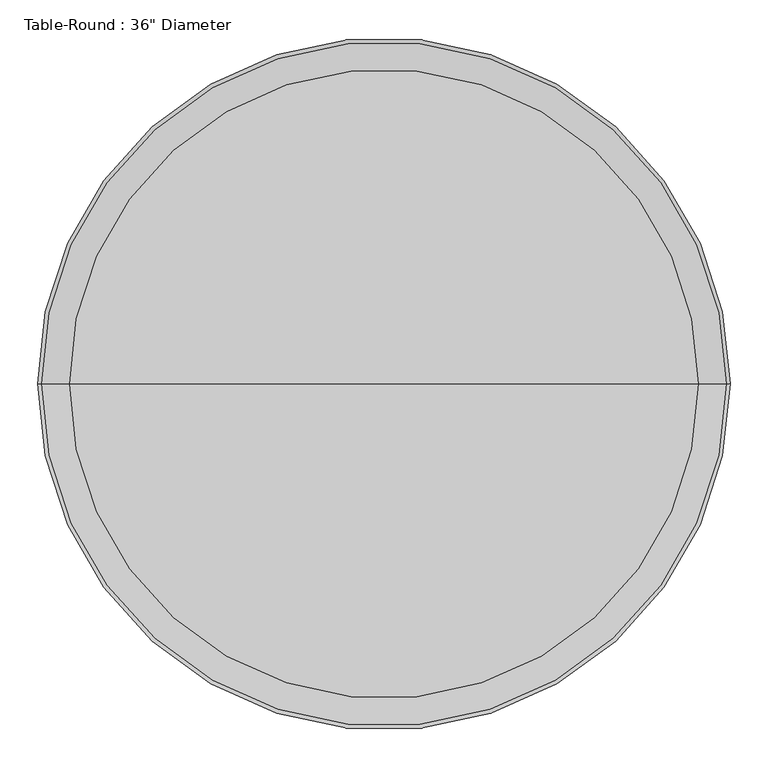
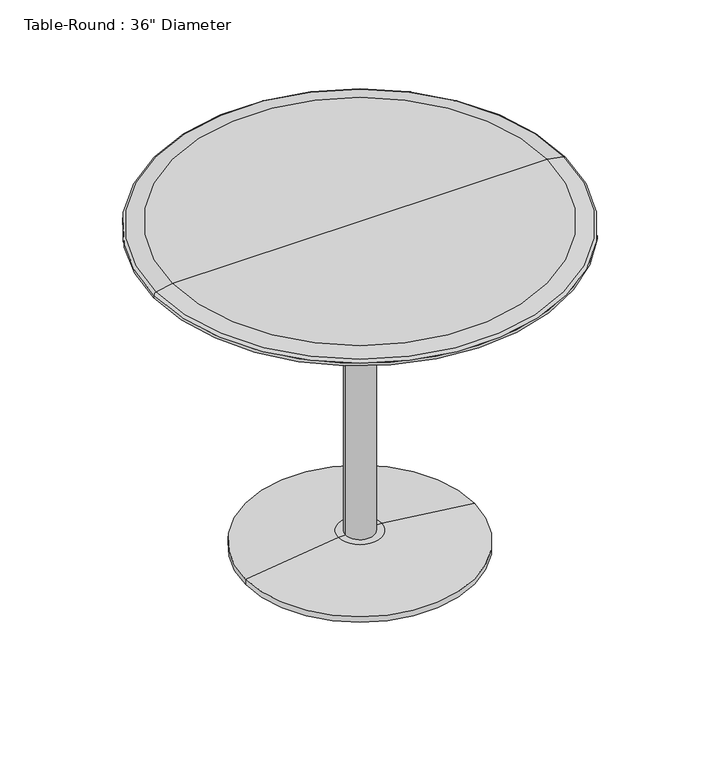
"""IFC4 building model written with IfcOpenShell, lengths in millimetres: furniture geometry."""

import ifcopenshell
import ifcopenshell.guid

model = None  # the IFC model being written
_history = None  # IfcOwnerHistory: only IFC2X3 demands one
_inside = {}  # id of a spatial element -> (the spatial element, [elements in it])
_under = {}  # id of a project, library or spatial element -> (it, [spatial elements below it])
_declared = {}  # id of a project -> (the project, [libraries it declares])
_typed = {}  # id of a type object -> (the type object, [elements of that type])
_made_of = {}  # id of a material, layer set ... -> (it, [elements and type objects made of it])


def new_model(schema):
    """Start an empty IFC model of exactly this schema.

    Asked for "IFC4X3", IfcOpenShell would pick the latest addendum, in which some entities
    have other attributes; the version numbers below select the first issue.
    IFC2X3 requires an IfcOwnerHistory on every rooted entity: one is made here for all.
    """
    global model, _history
    if schema == "IFC4X3":
        model = ifcopenshell.file(schema_version=(4, 3, 0, 0))
    else:
        model = ifcopenshell.file(schema=schema)
    _inside.clear()
    _under.clear()
    _declared.clear()
    _typed.clear()
    _made_of.clear()
    _history = None
    if model.schema == "IFC2X3":
        org = make("IfcOrganization", Name="unknown")
        user = make(
            "IfcPersonAndOrganization",
            ThePerson=make("IfcPerson", FamilyName="unknown"),
            TheOrganization=org,
        )
        app = make(
            "IfcApplication",
            ApplicationDeveloper=org,
            Version="unknown",
            ApplicationFullName="unknown",
            ApplicationIdentifier="unknown",
        )
        _history = make(
            "IfcOwnerHistory",
            OwningUser=user,
            OwningApplication=app,
            ChangeAction="ADDED",
            CreationDate=0,
        )
    return model


def make(cls, **values):
    """One entity of the class cls with the attributes given. An attribute that is None is left unset."""
    return model.create_entity(
        cls, **{name: value for name, value in values.items() if value is not None}
    )


def rooted(cls, **values):
    """An entity with a GlobalId (a new one), such as an element, a storey or a relation."""
    return make(cls, GlobalId=ifcopenshell.guid.new(), OwnerHistory=_history, **values)


def si_unit(unit_type, name, prefix=None):
    """IfcSIUnit, for example si_unit("LENGTHUNIT", "METRE", prefix="MILLI")."""
    return make("IfcSIUnit", UnitType=unit_type, Prefix=prefix, Name=name)


def assignment(units):
    """IfcUnitAssignment: the units of a project."""
    return None if units is None else make("IfcUnitAssignment", Units=units)


def point(xyz):
    """IfcCartesianPoint."""
    return None if xyz is None else make("IfcCartesianPoint", Coordinates=xyz)


def direction(xyz):
    """IfcDirection."""
    return None if xyz is None else make("IfcDirection", DirectionRatios=xyz)


def frame(location, z_axis=None, x_axis=None):
    """IfcAxis2Placement3D, a coordinate frame: its origin and axes. An axis left out is left unset."""
    return make(
        "IfcAxis2Placement3D",
        Location=point(location),
        Axis=direction(z_axis),
        RefDirection=direction(x_axis),
    )


def frame_2d(location, x_axis=None):
    """IfcAxis2Placement2D, a coordinate frame in the plane: its origin and x axis."""
    return make(
        "IfcAxis2Placement2D", Location=point(location), RefDirection=direction(x_axis)
    )


def origin():
    """The frame at (0, 0, 0) with its axes left unset."""
    return frame((0.0, 0.0, 0.0))


def origin_2d():
    """The frame at (0, 0) in the plane with its x axis left unset."""
    return frame_2d((0.0, 0.0))


def place(relative_to, where):
    """IfcLocalPlacement: puts the frame where relative to a parent placement (None: the world)."""
    return make(
        "IfcLocalPlacement", PlacementRelTo=relative_to, RelativePlacement=where
    )


def context(
    kind, dimensions, precision=None, world=None, true_north=None, identifier=None
):
    """IfcGeometricRepresentationContext, for example the 3D "Model" context."""
    return make(
        "IfcGeometricRepresentationContext",
        ContextIdentifier=identifier,
        ContextType=kind,
        CoordinateSpaceDimension=dimensions,
        Precision=precision,
        WorldCoordinateSystem=world,
        TrueNorth=true_north,
    )


def project(units=None, contexts=None):
    """IfcProject with its units and contexts."""
    return rooted(
        "IfcProject",
        Name="project",
        RepresentationContexts=contexts,
        UnitsInContext=assignment(units),
    )


def spatial(cls, under=None, at=None, **own):
    """A site, building, storey or space (cls), placed at a placement, below another one or the project."""
    s = rooted(cls, ObjectPlacement=at, **own)
    if under is not None:
        _under.setdefault(under.id(), (under, []))[1].append(s)
    return s


def polyline(points):
    """IfcPolyline through the points."""
    return make("IfcPolyline", Points=[point(p) for p in points])


def circle_curve(where, radius):
    """IfcCircle in the frame where."""
    return make("IfcCircle", Position=where, Radius=radius)


def ellipse_curve(where, semi_axis1, semi_axis2):
    """IfcEllipse in the frame where."""
    return make(
        "IfcEllipse", Position=where, SemiAxis1=semi_axis1, SemiAxis2=semi_axis2
    )


def trimmed(basis, trim1, trim2, sense, master):
    """IfcTrimmedCurve: the piece of a basis curve between two trims."""
    return make(
        "IfcTrimmedCurve",
        BasisCurve=basis,
        Trim1=trim1,
        Trim2=trim2,
        SenseAgreement=sense,
        MasterRepresentation=master,
    )


def segment(curve, same_sense, transition):
    """IfcCompositeCurveSegment."""
    return make(
        "IfcCompositeCurveSegment",
        Transition=transition,
        SameSense=same_sense,
        ParentCurve=curve,
    )


def composite_curve(segments, self_intersect=None):
    """IfcCompositeCurve: segments joined end to end."""
    return make("IfcCompositeCurve", Segments=segments, SelfIntersect=self_intersect)


def outline(outer, holes=None, kind="AREA"):
    """IfcArbitraryClosedProfileDef: a profile drawn as a closed curve; with holes, ...WithVoids."""
    if holes is None:
        return make("IfcArbitraryClosedProfileDef", ProfileType=kind, OuterCurve=outer)
    return make(
        "IfcArbitraryProfileDefWithVoids",
        ProfileType=kind,
        OuterCurve=outer,
        InnerCurves=holes,
    )


def extrude(swept, where, along, depth):
    """IfcExtrudedAreaSolid: the profile swept, set in the frame where, extruded along a direction by depth."""
    return make(
        "IfcExtrudedAreaSolid",
        SweptArea=swept,
        Position=where,
        ExtrudedDirection=direction(along),
        Depth=depth,
    )


def shape(context_of_items, identifier, shape_type, items):
    """IfcShapeRepresentation: the items that make up one representation, for example the "Body"."""
    return make(
        "IfcShapeRepresentation",
        ContextOfItems=context_of_items,
        RepresentationIdentifier=identifier,
        RepresentationType=shape_type,
        Items=items,
    )


def source(mapping_origin, context_of_items, identifier, shape_type, items):
    """IfcRepresentationMap: a shape defined once, which mapped items show again and again."""
    return make(
        "IfcRepresentationMap",
        MappingOrigin=mapping_origin,
        MappedRepresentation=shape(context_of_items, identifier, shape_type, items),
    )


def transform(
    local_origin,
    x_axis=None,
    y_axis=None,
    z_axis=None,
    scale=None,
    scale2=None,
    scale3=None,
    uniform=True,
):
    """IfcCartesianTransformationOperator3D, or its non-uniform kind. x_axis, y_axis, z_axis: its Axis1, 2, 3."""
    if uniform:
        return make(
            "IfcCartesianTransformationOperator3D",
            Axis1=direction(x_axis),
            Axis2=direction(y_axis),
            LocalOrigin=point(local_origin),
            Scale=scale,
            Axis3=direction(z_axis),
        )
    return make(
        "IfcCartesianTransformationOperator3DnonUniform",
        Axis1=direction(x_axis),
        Axis2=direction(y_axis),
        LocalOrigin=point(local_origin),
        Scale=scale,
        Axis3=direction(z_axis),
        Scale2=scale2,
        Scale3=scale3,
    )


def mapped(mapping_source, mapping_target):
    """IfcMappedItem: shows the shape of a source again, moved by a transform."""
    return make(
        "IfcMappedItem", MappingSource=mapping_source, MappingTarget=mapping_target
    )


def made_of(thing, what):
    """Note that an element or type object is made of a material, layer set ...; save() writes the relation."""
    if what is not None:
        _made_of.setdefault(what.id(), (what, []))[1].append(thing)
    return thing


def element(
    cls,
    number,
    at=None,
    inside=None,
    cuts=None,
    type_object=None,
    material=None,
    context=None,
    identifier="Body",
    shape_type=None,
    held_by="IfcProductDefinitionShape",
    body=None,
    shapes=None,
    **own,
):
    """One element of the class cls, such as IfcWall. Its Tag is "e" and its number.

    at: its placement. inside: the storey or other place that contains it. cuts: it is an
    opening in that element (IfcRelVoidsElement). A single representation is given by context,
    identifier, shape_type and body (its items); several are given by shapes. held_by: the class
    of the entity that holds the representations. save() writes the other relations.
    """
    e = rooted(cls, Tag="e%d" % number, ObjectPlacement=at, **own)
    if body is not None:
        shapes = [shape(context, identifier, shape_type, body)]
    if shapes is not None:
        e.Representation = make(held_by, Representations=shapes)
    if inside is not None:
        _inside.setdefault(inside.id(), (inside, []))[1].append(e)
    if cuts is not None:
        rooted(
            "IfcRelVoidsElement", RelatingBuildingElement=cuts, RelatedOpeningElement=e
        )
    if type_object is not None:
        _typed.setdefault(type_object.id(), (type_object, []))[1].append(e)
    return made_of(e, material)


def aggregate(whole, parts):
    """IfcRelAggregates: a whole, such as a stair, and the parts it consists of."""
    return rooted("IfcRelAggregates", RelatingObject=whole, RelatedObjects=parts)


def save(model, path):
    """Write the relations noted so far, then the file.

    IfcRelAggregates (storeys below a building ...), IfcRelContainedInSpatialStructure (elements
    in a storey), IfcRelDefinesByType, IfcRelAssociatesMaterial and IfcRelDeclares: one each for
    every whole, place, type object, material and project.
    """
    for whole, parts in _under.values():
        aggregate(whole, parts)
    for where, things in _inside.values():
        rooted(
            "IfcRelContainedInSpatialStructure",
            RelatedElements=things,
            RelatingStructure=where,
        )
    for kind, things in _typed.values():
        rooted("IfcRelDefinesByType", RelatedObjects=things, RelatingType=kind)
    for what, things in _made_of.values():
        rooted("IfcRelAssociatesMaterial", RelatedObjects=things, RelatingMaterial=what)
    for by, libraries in _declared.values():
        rooted("IfcRelDeclares", RelatingContext=by, RelatedDefinitions=libraries)
    model.write(path)


def plane_surface(at):
    """IfcPlane: the flat surface through the origin of the frame at, square to its z axis."""
    return make("IfcPlane", Position=at)


def cylinder_surface(at, radius):
    """IfcCylindricalSurface: all points at the distance radius from the z axis of the frame at."""
    return make("IfcCylindricalSurface", Position=at, Radius=radius)


def revolved_surface(curve, axis_point, axis_direction):
    """IfcSurfaceOfRevolution: the curve turned about the line through axis_point along axis_direction."""
    return make(
        "IfcSurfaceOfRevolution",
        SweptCurve=make("IfcArbitraryOpenProfileDef", ProfileType="CURVE", Curve=curve),
        AxisPosition=make("IfcAxis1Placement", Location=point(axis_point), Axis=direction(axis_direction)),
    )


def advanced_brep(points, edges, surfaces, faces):
    """IfcAdvancedBrep: a solid bounded by faces that lie on surfaces and meet in shared edges.

    An edge is (start, end): straight between two places in points (the first is 0);
    or (start, end, curve); or (start, end, curve, False) where it runs against its curve.
    A face is (place in surfaces, loops), or (place, loops, False) where it looks against
    its surface's normal. A loop lists edges by number (the first is 1), with a minus sign
    where the edge is run from its end to its start. The first loop is the outer one.
    """
    corners = [point(p) for p in points]
    vertices = [make("IfcVertexPoint", VertexGeometry=c) for c in corners]
    made = []
    for start, end, *more in edges:
        made.append(
            make(
                "IfcEdgeCurve",
                EdgeStart=vertices[start],
                EdgeEnd=vertices[end],
                EdgeGeometry=more[0] if more else make("IfcPolyline", Points=[corners[start], corners[end]]),
                SameSense=more[1] if len(more) > 1 else True,
            )
        )
    hull = []
    for where, loops, *sense in faces:
        bounds = []
        for j, loop in enumerate(loops):
            ring = [make("IfcOrientedEdge", EdgeElement=made[abs(k) - 1], Orientation=k > 0) for k in loop]
            bounds.append(
                make(
                    "IfcFaceOuterBound" if j == 0 else "IfcFaceBound",
                    Bound=make("IfcEdgeLoop", EdgeList=ring),
                    Orientation=True,
                )
            )
        hull.append(make("IfcAdvancedFace", Bounds=bounds, FaceSurface=surfaces[where], SameSense=sense[0] if sense else True))
    return make("IfcAdvancedBrep", Outer=make("IfcClosedShell", CfsFaces=hull))


def furniture_c80d6d9c(model_context):
    return source(origin(), model_context, "Body", "SolidModel", [
        extrude(outline(composite_curve([segment(trimmed(circle_curve(origin_2d(), 31.75), [point((-31.75, 0.0))], [point((31.75, 0.0))], False, "CARTESIAN"), True, "CONTINUOUS"), segment(trimmed(circle_curve(origin_2d(), 31.75), [point((31.75, 0.0))], [point((-31.75, 0.0))], False, "CARTESIAN"), True, "CONTINUOUS")], self_intersect=False)), frame((0.0, 0.0, 38.1), z_axis=(0.0, 0.0, 1.0), x_axis=(1.0, 0.0, 0.0)), (0.0, 0.0, 1.0), 704.85),
        advanced_brep(
        [(0.0, 0.0, 742.95), (-457.2, 0.0, 742.95), (457.2, 0.0, 742.95), (415.3011364, 0.0, 762.0), (-415.3011364, 0.0, 762.0), (0.0, 0.0, 762.0), (451.9526659, 0.0, 755.5373465), (-451.9526659, 0.0, 755.5373465), (457.2, 0.0, 749.2838172), (-457.2, 0.0, 749.2838172)],
        [
            (0, 1),
            (1, 2, circle_curve(frame((0.0, 0.0, 742.95), z_axis=(0.0, 0.0, -1.0), x_axis=(-1.0, 0.0, 0.0)), 457.2)),
            (2, 0),
            (2, 1, circle_curve(frame((0.0, 0.0, 742.95), z_axis=(0.0, 0.0, -1.0), x_axis=(-1.0, 0.0, 0.0)), 457.2)),
            (3, 4, circle_curve(frame((0.0, 0.0, 762.0), z_axis=(0.0, 0.0, 1.0), x_axis=(-1.0, 0.0, 0.0)), 415.3011364)),
            (4, 5),
            (5, 3),
            (4, 3, circle_curve(frame((0.0, 0.0, 762.0), z_axis=(0.0, 0.0, 1.0), x_axis=(-1.0, 0.0, 0.0)), 415.3011364)),
            (6, 7, circle_curve(frame((0.0, 0.0, 755.5373465), z_axis=(0.0, 0.0, 1.0), x_axis=(-1.0, 0.0, 0.0)), 451.9526659)),
            (7, 4),
            (3, 6),
            (7, 6, circle_curve(frame((0.0, 0.0, 755.5373465), z_axis=(0.0, 0.0, 1.0), x_axis=(-1.0, 0.0, 0.0)), 451.9526659)),
            (8, 9, circle_curve(frame((0.0, 0.0, 749.2838172), z_axis=(0.0, 0.0, 1.0), x_axis=(-1.0, 0.0, 0.0)), 457.2)),
            (9, 7, circle_curve(frame((-450.85, 0.0, 749.2838172), z_axis=(0.0, 1.0, 0.0), x_axis=(1.0, 0.0, 0.0)), 6.35)),
            (6, 8, circle_curve(frame((450.85, 0.0, 749.2838172), z_axis=(0.0, 1.0, 0.0), x_axis=(-1.0, 0.0, 0.0)), 6.35)),
            (9, 8, circle_curve(frame((0.0, 0.0, 749.2838172), z_axis=(0.0, 0.0, 1.0), x_axis=(-1.0, 0.0, 0.0)), 457.2)),
            (1, 9),
            (8, 2),
        ],
        [
            plane_surface(frame((0.0, 0.0, 742.95), z_axis=(0.0, 0.0, -1.0), x_axis=(-1.0, 0.0, 0.0))),
            plane_surface(frame((0.0, 0.0, 762.0), z_axis=(0.0, 0.0, 1.0), x_axis=(-1.0, 0.0, 0.0))),
            revolved_surface(polyline([(-415.3011364, 0.0, 762.0), (-451.9526659, 0.0, 755.5373465)]), (0.0, 0.0, 838.2), (0.0, 0.0, -1.0)),
            revolved_surface(trimmed(ellipse_curve(frame((-450.85, 0.0, 749.2838172), z_axis=(0.0, -1.0, 0.0), x_axis=(1.0, 0.0, 0.0)), 6.35, 6.35), [point((-451.9526659, 0.0, 755.5373465))], [point((-457.2, 0.0, 749.2838172))], True, "CARTESIAN"), (0.0, 0.0, 838.2), (0.0, 0.0, -1.0)),
            cylinder_surface(frame((0.0, 0.0, 838.2), z_axis=(0.0, 0.0, -1.0), x_axis=(-1.0, 0.0, 0.0)), 457.2),
        ],
        [
            (0, [[1, 2, 3]]),
            (0, [[-3, 4, -1]]),
            (1, [[5, 6, 7]]),
            (1, [[8, -7, -6]]),
            (2, [[9, 10, -5, 11]]),
            (2, [[12, -11, -8, -10]]),
            (3, [[13, 14, -9, 15]]),
            (3, [[16, -15, -12, -14]]),
            (4, [[-2, 17, -13, 18]]),
            (4, [[-4, -18, -16, -17]]),
        ],
    ),
        advanced_brep(
        [(0.0, 0.0, 0.0), (-254.0, 0.0, 0.0), (254.0, 0.0, 0.0), (47.625, 0.0, 38.1), (-47.625, 0.0, 38.1), (0.0, 0.0, 38.1), (254.0, 0.0, 12.7), (-254.0, 0.0, 12.7)],
        [
            (0, 1),
            (1, 2, circle_curve(frame((0.0, 0.0, 0.0), z_axis=(0.0, 0.0, -1.0), x_axis=(-1.0, 0.0, 0.0)), 254.0)),
            (2, 0),
            (2, 1, circle_curve(frame((0.0, 0.0, 0.0), z_axis=(0.0, 0.0, -1.0), x_axis=(-1.0, 0.0, 0.0)), 254.0)),
            (3, 4, circle_curve(frame((0.0, 0.0, 38.1), z_axis=(0.0, 0.0, 1.0), x_axis=(-1.0, 0.0, 0.0)), 47.625)),
            (4, 5),
            (5, 3),
            (4, 3, circle_curve(frame((0.0, 0.0, 38.1), z_axis=(0.0, 0.0, 1.0), x_axis=(-1.0, 0.0, 0.0)), 47.625)),
            (6, 7, circle_curve(frame((0.0, 0.0, 12.7), z_axis=(0.0, 0.0, 1.0), x_axis=(-1.0, 0.0, 0.0)), 254.0)),
            (7, 4),
            (3, 6),
            (7, 6, circle_curve(frame((0.0, 0.0, 12.7), z_axis=(0.0, 0.0, 1.0), x_axis=(-1.0, 0.0, 0.0)), 254.0)),
            (1, 7),
            (6, 2),
        ],
        [
            plane_surface(frame((0.0, 0.0, 0.0), z_axis=(0.0, 0.0, -1.0), x_axis=(-1.0, 0.0, 0.0))),
            plane_surface(frame((0.0, 0.0, 38.1), z_axis=(0.0, 0.0, 1.0), x_axis=(-1.0, 0.0, 0.0))),
            revolved_surface(polyline([(-47.625, 0.0, 38.1), (-254.0, 0.0, 12.7)]), (0.0, 0.0, 215.9), (0.0, 0.0, -1.0)),
            cylinder_surface(frame((0.0, 0.0, 215.9), z_axis=(0.0, 0.0, -1.0), x_axis=(-1.0, 0.0, 0.0)), 254.0),
        ],
        [
            (0, [[1, 2, 3]]),
            (0, [[-3, 4, -1]]),
            (1, [[5, 6, 7]]),
            (1, [[8, -7, -6]]),
            (2, [[9, 10, -5, 11]]),
            (2, [[12, -11, -8, -10]]),
            (3, [[-2, 13, -9, 14]]),
            (3, [[-4, -14, -12, -13]]),
        ],
    ),
    ])


if __name__ == "__main__":
    model = new_model("IFC4")
    model_context = context("Model", 3, world=origin())
    ifc_project = project(units=[si_unit("LENGTHUNIT", "METRE", prefix="MILLI")], contexts=[model_context])
    site = spatial("IfcSite", under=ifc_project)
    building = spatial("IfcBuilding", under=site)
    placement = place(None, origin())
    furniture_shape = furniture_c80d6d9c(model_context)
    element("IfcFurniture", 1, ObjectType="Table-Round : 36\" Diameter", at=placement, inside=building, context=model_context, shape_type="MappedRepresentation", body=[
        mapped(furniture_shape, transform((0.0, 0.0, 0.0), x_axis=(1.0, 0.0, 0.0), y_axis=(0.0, 1.0, 0.0), z_axis=(0.0, 0.0, 1.0))),
    ])
    save(model, "model.ifc")
